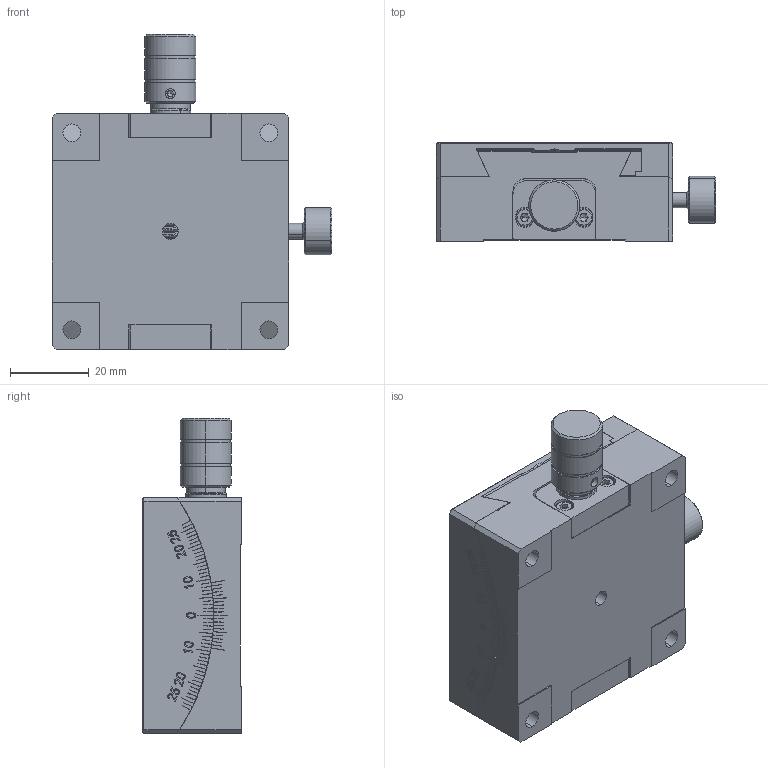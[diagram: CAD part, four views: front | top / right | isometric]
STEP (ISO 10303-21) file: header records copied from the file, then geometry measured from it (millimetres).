
FILE_DESCRIPTION (( 'STEP AP203' ), '1' );
FILE_NAME ('BFSG60-35.STEP', '2024-07-30T02:10:48', ( '微软用户' ), ( '微软中国' ), 'SwSTEP 2.0', 'SolidWorks 2024', '' );
FILE_SCHEMA (( 'CONFIG_CONTROL_DESIGN' ));
Length unit declared in the file: millimetre
Products named in the file (1): BFSG60-35
Bounding box: 71 x 25 x 79.95 mm (x, y, z)
Volume: 86997.7 mm3; surface area: 35328.2 mm2
Topology: 18 solids, 18 shells, 977 faces, 2556 edges, 1637 vertices
Faces by surface type: plane 569, cylinder 212, cone 93, torus 54, bspline 49
Entity records: 41192 total; most frequent: CARTESIAN_POINT 17178, ORIENTED_EDGE 5032, DIRECTION 4847, EDGE_CURVE 2516, VECTOR 1647, LINE 1647, VERTEX_POINT 1637, AXIS2_PLACEMENT_3D 1600
